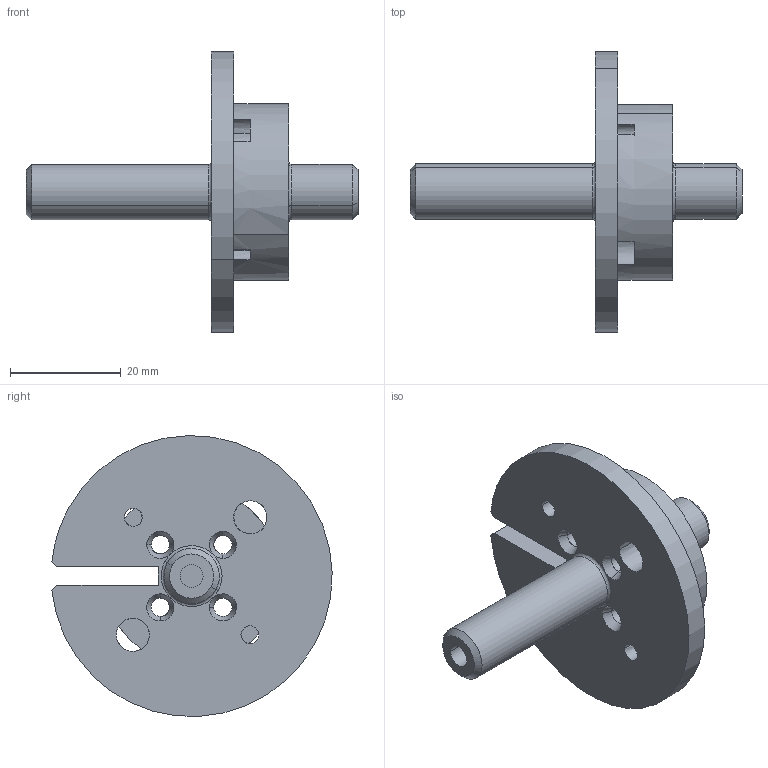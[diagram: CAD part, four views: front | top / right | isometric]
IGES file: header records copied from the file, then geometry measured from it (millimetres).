
Start section: START RECORD GO HERE.
Global section: file name: 1360.000.003.000.FLECHA.igs; native system: DASSAULT SYSTEMES CATIA Version 5-6 Release 2018 - www.3ds.com; preprocessor: V5-6R2018_5.28.6.0.03-10-2020.20.00; author: Pc; organization: DESKTOP-CAESKE4; date: 20241108.095741; units: millimetre
Bounding box: 60 x 50.66 x 50.75 mm (x, y, z)
Surface area: 8224.6 mm2 (no closed solid volume)
Topology: 0 solids, 0 shells, 63 faces, 364 edges, 364 vertices
Faces by surface type: revolution 44, plane 19
